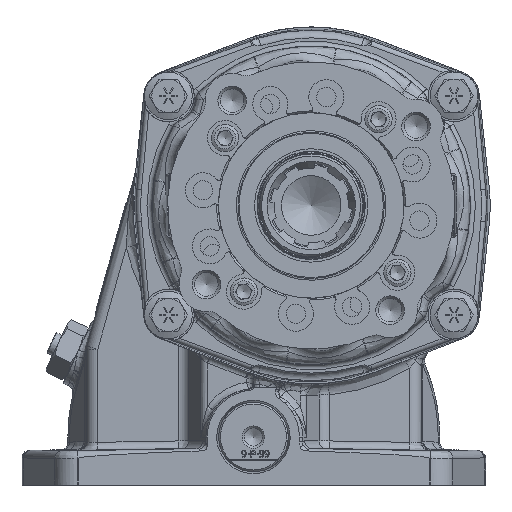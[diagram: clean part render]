
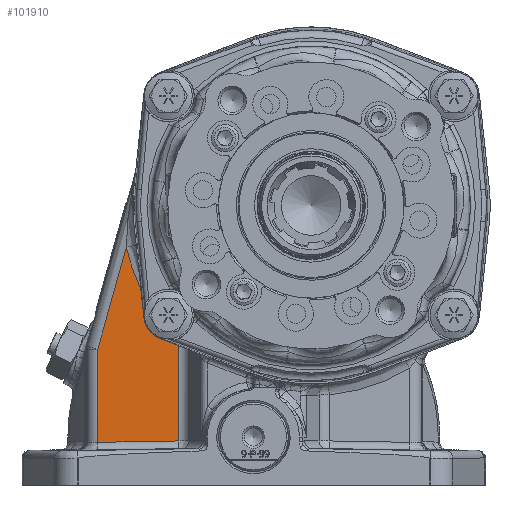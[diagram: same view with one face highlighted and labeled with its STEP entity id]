
A CAD part, left-side view. The second image highlights one B-rep face of the part: STEP entity #101910.
In plain terms, the highlighted planar face has unit normal (-0.999, 0.035, 0) as drawn and (-0.999, -0.035, 0) by its records, which use the part's own axes.
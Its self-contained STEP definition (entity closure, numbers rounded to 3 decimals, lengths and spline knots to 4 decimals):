
#2142=ELLIPSE('',#108596,3.232,3.23);
#9581=PLANE('',#108595);
#12465=FACE_OUTER_BOUND('',#18559,.T.);
#18559=EDGE_LOOP('',(#73750,#73751,#73752,#73753,#73754));
#28645=LINE('',#151630,#36255);
#28647=LINE('',#151709,#36257);
#28648=LINE('',#151714,#36258);
#28649=LINE('',#151715,#36259);
#36255=VECTOR('',#118725,0.3937);
#36257=VECTOR('',#118749,0.3937);
#36258=VECTOR('',#118754,0.3937);
#36259=VECTOR('',#118755,0.3937);
#47110=VERTEX_POINT('',#151624);
#47111=VERTEX_POINT('',#151628);
#47112=VERTEX_POINT('',#151707);
#47113=VERTEX_POINT('',#151711);
#47114=VERTEX_POINT('',#151713);
#57152=EDGE_CURVE('',#47110,#47111,#28645,.T.);
#57161=EDGE_CURVE('',#47111,#47112,#28647,.T.);
#57162=EDGE_CURVE('',#47112,#47113,#2142,.T.);
#57163=EDGE_CURVE('',#47113,#47114,#28648,.T.);
#57164=EDGE_CURVE('',#47114,#47110,#28649,.T.);
#73750=ORIENTED_EDGE('',*,*,#57152,.T.);
#73751=ORIENTED_EDGE('',*,*,#57161,.T.);
#73752=ORIENTED_EDGE('',*,*,#57162,.T.);
#73753=ORIENTED_EDGE('',*,*,#57163,.T.);
#73754=ORIENTED_EDGE('',*,*,#57164,.T.);
#101910=ADVANCED_FACE('',(#12465),#9581,.F.);
#108595=AXIS2_PLACEMENT_3D('',#151710,#118750,#118751);
#108596=AXIS2_PLACEMENT_3D('',#151712,#118752,#118753);
#118725=DIRECTION('',(-0.035,0.999,-0.017));
#118749=DIRECTION('',(0.,0.,-1.));
#118750=DIRECTION('center_axis',(0.999,0.035,0.));
#118751=DIRECTION('ref_axis',(0.,0.,-1.));
#118752=DIRECTION('center_axis',(0.999,0.035,0.));
#118753=DIRECTION('ref_axis',(0.035,-0.999,0.));
#118754=DIRECTION('',(0.009,-0.269,0.963));
#118755=DIRECTION('',(0.,0.,1.));
#151624=CARTESIAN_POINT('',(-1.4067,-2.647,-0.8162));
#151628=CARTESIAN_POINT('',(-1.4545,-1.2805,-0.8395));
#151630=CARTESIAN_POINT('',(-1.4115,-2.5106,-0.8185));
#151707=CARTESIAN_POINT('',(-1.4545,-1.2805,-2.5351));
#151709=CARTESIAN_POINT('',(-1.4545,-1.2805,-1.0042));
#151710=CARTESIAN_POINT('Origin',(-1.4,-2.84,0.));
#151711=CARTESIAN_POINT('',(-1.4236,-2.1642,-4.1253));
#151712=CARTESIAN_POINT('Origin',(-1.5336,0.9868,-4.8357));
#151713=CARTESIAN_POINT('',(-1.4067,-2.647,-2.3976));
#151714=CARTESIAN_POINT('',(-1.4112,-2.5203,-2.851));
#151715=CARTESIAN_POINT('',(-1.4067,-2.647,0.));
